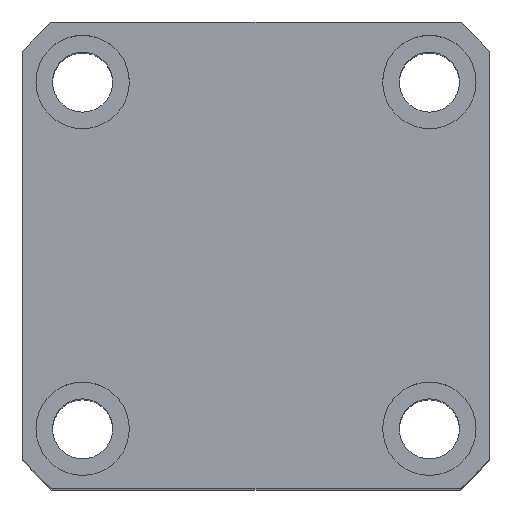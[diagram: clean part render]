
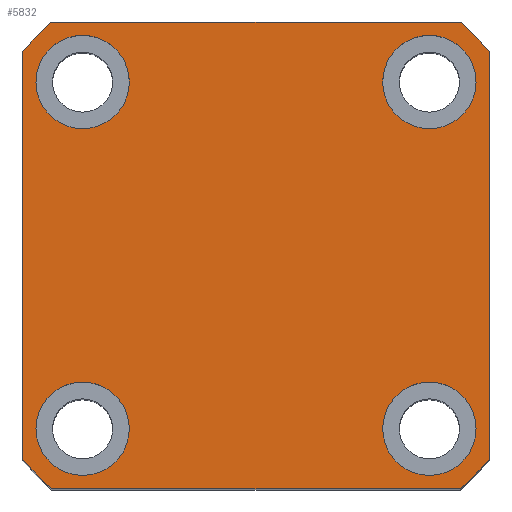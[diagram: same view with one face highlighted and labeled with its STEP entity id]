
A CAD part, top view. The second image highlights one B-rep face of the part: STEP entity #5832.
In plain terms, the highlighted planar face has unit normal (0, 0, 1).
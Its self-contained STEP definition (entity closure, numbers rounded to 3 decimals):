
#552=LINE('',#19623,#1456);
#563=LINE('',#19933,#1467);
#566=LINE('',#19939,#1470);
#569=LINE('',#19945,#1473);
#1456=VECTOR('',#13204,1.);
#1467=VECTOR('',#13349,1.);
#1470=VECTOR('',#13354,1.);
#1473=VECTOR('',#13359,1.);
#4903=PLANE('',#12694);
#5832=ADVANCED_FACE('',(#6484,#6485,#6486,#6487,#6488),#4903,.T.);
#6336=CIRCLE('',#12670,7.);
#6338=CIRCLE('',#12673,7.);
#6340=CIRCLE('',#12676,7.);
#6342=CIRCLE('',#12679,7.);
#6348=CIRCLE('',#12690,46.5);
#6349=CIRCLE('',#12691,46.5);
#6350=CIRCLE('',#12692,46.5);
#6351=CIRCLE('',#12693,46.5);
#6484=FACE_BOUND('',#6706,.T.);
#6485=FACE_BOUND('',#6707,.T.);
#6486=FACE_BOUND('',#6708,.T.);
#6487=FACE_BOUND('',#6709,.T.);
#6488=FACE_BOUND('',#6710,.T.);
#6706=EDGE_LOOP('',(#7601));
#6707=EDGE_LOOP('',(#7602));
#6708=EDGE_LOOP('',(#7603));
#6709=EDGE_LOOP('',(#7604));
#6710=EDGE_LOOP('',(#7605,#7606,#7607,#7608,#7609,#7610,#7611,#7612));
#7601=ORIENTED_EDGE('',*,*,#11030,.F.);
#7602=ORIENTED_EDGE('',*,*,#11032,.F.);
#7603=ORIENTED_EDGE('',*,*,#11034,.F.);
#7604=ORIENTED_EDGE('',*,*,#11036,.F.);
#7605=ORIENTED_EDGE('',*,*,#11046,.T.);
#7606=ORIENTED_EDGE('',*,*,#11054,.T.);
#7607=ORIENTED_EDGE('',*,*,#11049,.T.);
#7608=ORIENTED_EDGE('',*,*,#11055,.T.);
#7609=ORIENTED_EDGE('',*,*,#10986,.T.);
#7610=ORIENTED_EDGE('',*,*,#11056,.T.);
#7611=ORIENTED_EDGE('',*,*,#11052,.T.);
#7612=ORIENTED_EDGE('',*,*,#11057,.T.);
#10018=VERTEX_POINT('',#19621);
#10020=VERTEX_POINT('',#19624);
#10060=VERTEX_POINT('',#19898);
#10062=VERTEX_POINT('',#19903);
#10064=VERTEX_POINT('',#19908);
#10066=VERTEX_POINT('',#19913);
#10074=VERTEX_POINT('',#19932);
#10075=VERTEX_POINT('',#19934);
#10076=VERTEX_POINT('',#19938);
#10077=VERTEX_POINT('',#19940);
#10078=VERTEX_POINT('',#19944);
#10079=VERTEX_POINT('',#19946);
#10986=EDGE_CURVE('',#10020,#10018,#552,.T.);
#11030=EDGE_CURVE('',#10060,#10060,#6336,.T.);
#11032=EDGE_CURVE('',#10062,#10062,#6338,.T.);
#11034=EDGE_CURVE('',#10064,#10064,#6340,.T.);
#11036=EDGE_CURVE('',#10066,#10066,#6342,.T.);
#11046=EDGE_CURVE('',#10075,#10074,#563,.T.);
#11049=EDGE_CURVE('',#10077,#10076,#566,.T.);
#11052=EDGE_CURVE('',#10079,#10078,#569,.T.);
#11054=EDGE_CURVE('',#10074,#10077,#6348,.T.);
#11055=EDGE_CURVE('',#10076,#10020,#6349,.T.);
#11056=EDGE_CURVE('',#10018,#10079,#6350,.T.);
#11057=EDGE_CURVE('',#10078,#10075,#6351,.T.);
#12670=AXIS2_PLACEMENT_3D('',#19897,#13311,#13312);
#12673=AXIS2_PLACEMENT_3D('',#19902,#13317,#13318);
#12676=AXIS2_PLACEMENT_3D('',#19907,#13323,#13324);
#12679=AXIS2_PLACEMENT_3D('',#19912,#13329,#13330);
#12690=AXIS2_PLACEMENT_3D('',#19949,#13363,#13364);
#12691=AXIS2_PLACEMENT_3D('',#19950,#13365,#13366);
#12692=AXIS2_PLACEMENT_3D('',#19951,#13367,#13368);
#12693=AXIS2_PLACEMENT_3D('',#19952,#13369,#13370);
#12694=AXIS2_PLACEMENT_3D('',#19953,#13371,#13372);
#13204=DIRECTION('',(0.,-1.,0.));
#13311=DIRECTION('',(0.,0.,1.));
#13312=DIRECTION('',(1.,0.,0.));
#13317=DIRECTION('',(0.,0.,1.));
#13318=DIRECTION('',(1.,0.,0.));
#13323=DIRECTION('',(0.,0.,1.));
#13324=DIRECTION('',(1.,0.,0.));
#13329=DIRECTION('',(0.,0.,1.));
#13330=DIRECTION('',(1.,0.,0.));
#13349=DIRECTION('',(0.,1.,0.));
#13354=DIRECTION('',(-1.,0.,0.));
#13359=DIRECTION('',(1.,0.,0.));
#13363=DIRECTION('',(0.,0.,1.));
#13364=DIRECTION('',(1.,0.,0.));
#13365=DIRECTION('',(0.,0.,1.));
#13366=DIRECTION('',(1.,0.,0.));
#13367=DIRECTION('',(0.,0.,1.));
#13368=DIRECTION('',(1.,0.,0.));
#13369=DIRECTION('',(0.,0.,1.));
#13370=DIRECTION('',(1.,0.,0.));
#13371=DIRECTION('',(0.,0.,1.));
#13372=DIRECTION('',(-1.,0.,0.));
#19621=CARTESIAN_POINT('',(-19.356,-55.279,100.736));
#19623=CARTESIAN_POINT('',(-19.356,10.335,100.736));
#19624=CARTESIAN_POINT('',(-19.356,5.95,100.736));
#19897=CARTESIAN_POINT('',(-10.356,-50.665,100.736));
#19898=CARTESIAN_POINT('',(-3.356,-50.665,100.736));
#19902=CARTESIAN_POINT('',(41.644,-50.665,100.736));
#19903=CARTESIAN_POINT('',(48.644,-50.665,100.736));
#19907=CARTESIAN_POINT('',(41.644,1.335,100.736));
#19908=CARTESIAN_POINT('',(48.644,1.335,100.736));
#19912=CARTESIAN_POINT('',(-10.356,1.335,100.736));
#19913=CARTESIAN_POINT('',(-3.356,1.335,100.736));
#19932=CARTESIAN_POINT('',(50.644,5.95,100.736));
#19933=CARTESIAN_POINT('',(50.644,10.335,100.736));
#19934=CARTESIAN_POINT('',(50.644,-55.279,100.736));
#19938=CARTESIAN_POINT('',(-14.971,10.335,100.736));
#19939=CARTESIAN_POINT('',(-19.356,10.335,100.736));
#19940=CARTESIAN_POINT('',(46.258,10.335,100.736));
#19944=CARTESIAN_POINT('',(46.258,-59.665,100.736));
#19945=CARTESIAN_POINT('',(-19.356,-59.665,100.736));
#19946=CARTESIAN_POINT('',(-14.971,-59.665,100.736));
#19949=CARTESIAN_POINT('',(15.644,-24.665,100.736));
#19950=CARTESIAN_POINT('',(15.644,-24.665,100.736));
#19951=CARTESIAN_POINT('',(15.644,-24.665,100.736));
#19952=CARTESIAN_POINT('',(15.644,-24.665,100.736));
#19953=CARTESIAN_POINT('',(15.644,-24.665,100.736));
